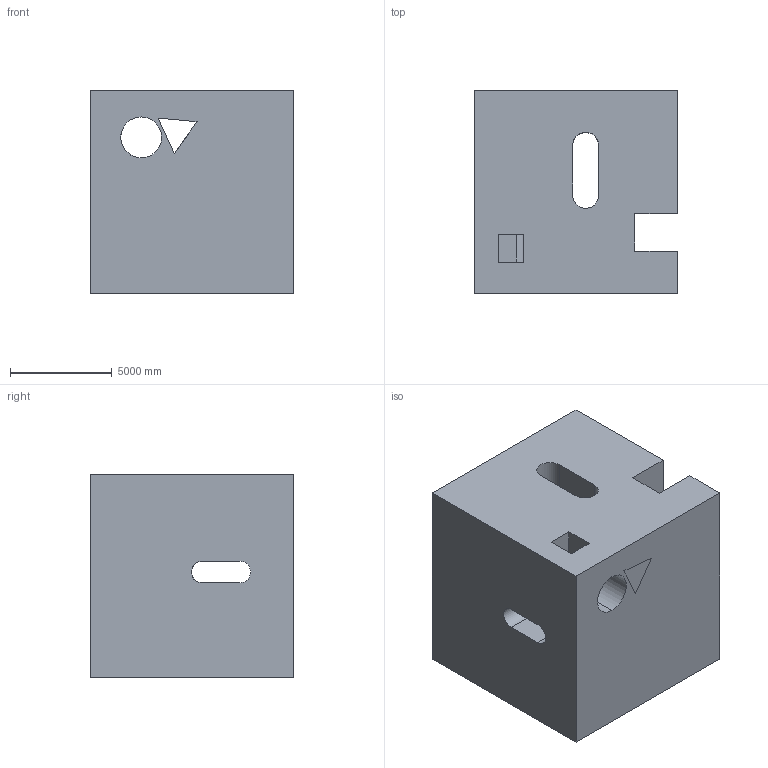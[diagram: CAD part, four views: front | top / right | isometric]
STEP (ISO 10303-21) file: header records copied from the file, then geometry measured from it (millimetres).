
FILE_DESCRIPTION (( 'STEP AP203' ), '1' );
FILE_NAME ('301.STEP', '2022-09-07T12:43:13', ( 'user' ), ( '' ), 'SwSTEP 2.0', 'SolidWorks 2021', '' );
FILE_SCHEMA (( 'CONFIG_CONTROL_DESIGN' ));
Length unit declared in the file: centimetre
Products named in the file (1): 301
Bounding box: 10000 x 10000 x 10000 mm (x, y, z)
Volume: 841099879081.3 mm3; surface area: 876203080.1 mm2
Topology: 1 solids, 1 shells, 32 faces, 105 edges, 70 vertices
Faces by surface type: plane 24, cylinder 8
Entity records: 1344 total; most frequent: CARTESIAN_POINT 320, ORIENTED_EDGE 210, DIRECTION 181, EDGE_CURVE 105, LINE 79, VECTOR 79, VERTEX_POINT 70, AXIS2_PLACEMENT_3D 51
